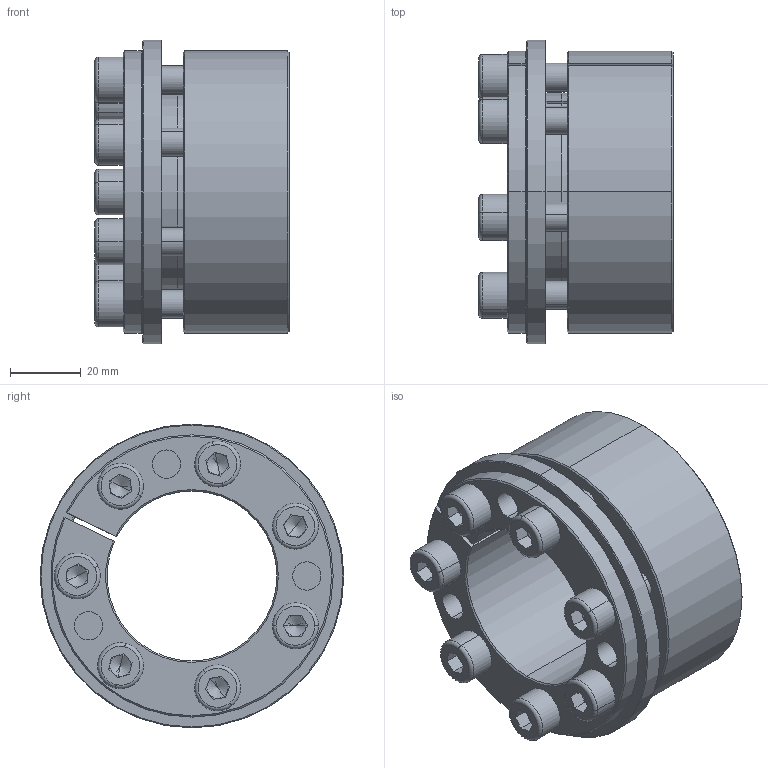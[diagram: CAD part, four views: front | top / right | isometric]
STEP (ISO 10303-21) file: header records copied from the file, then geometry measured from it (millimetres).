
FILE_DESCRIPTION (( 'STEP AP214' ), '1' );
FILE_NAME ('H5×°ÅäÌå48-80.STEP', '2022-07-26T02:20:52', ( '' ), ( '' ), 'SwSTEP 2.0', 'SolidWorks 2022', '' );
FILE_SCHEMA (( 'AUTOMOTIVE_DESIGN' ));
Length unit declared in the file: millimetre
Products named in the file (1): H5蚾饜极48-80
Bounding box: 55 x 86 x 86 mm (x, y, z)
Volume: 137325.1 mm3; surface area: 46101.7 mm2
Topology: 1 solids, 1 shells, 282 faces, 703 edges, 430 vertices
Faces by surface type: plane 115, cylinder 81, cone 72, torus 14
Entity records: 8428 total; most frequent: DIRECTION 1568, CARTESIAN_POINT 1474, ORIENTED_EDGE 1378, EDGE_CURVE 689, AXIS2_PLACEMENT_3D 620, VERTEX_POINT 430, CIRCLE 337, VECTOR 328
